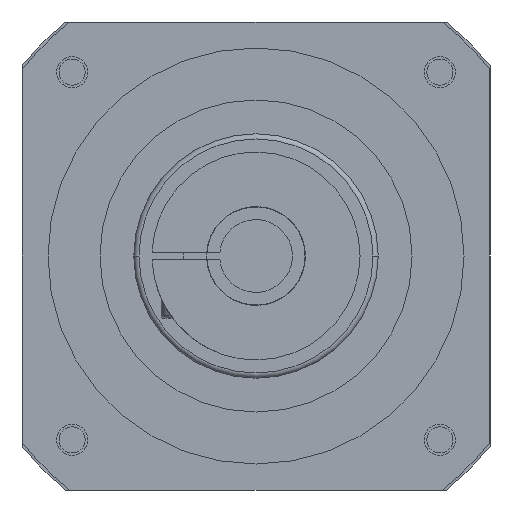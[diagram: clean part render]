
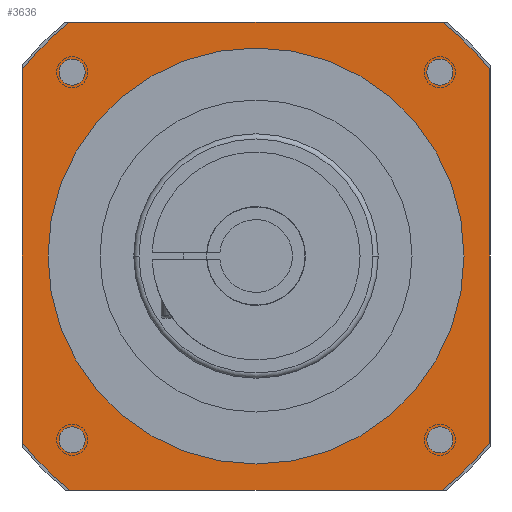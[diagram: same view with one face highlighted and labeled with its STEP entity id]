
A CAD part, left-side view. The second image highlights one B-rep face of the part: STEP entity #3636.
In plain terms, the highlighted planar face has unit normal (-1, 0, 0).
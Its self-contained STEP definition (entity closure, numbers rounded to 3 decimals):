
#832=CARTESIAN_POINT('',(0.,0.,0.));
#833=DIRECTION('',(-1.,0.,0.));
#834=DIRECTION('',(0.,-0.783,0.623));
#835=AXIS2_PLACEMENT_3D('',#832,#833,#834);
#837=DIRECTION('',(0.,0.,1.));
#838=VECTOR('',#837,71.589);
#839=CARTESIAN_POINT('',(0.,-45.,-35.795));
#840=LINE('',#839,#838);
#841=CARTESIAN_POINT('',(0.,0.,0.));
#842=DIRECTION('',(-1.,0.,0.));
#843=DIRECTION('',(0.,-0.623,-0.783));
#844=AXIS2_PLACEMENT_3D('',#841,#842,#843);
#846=DIRECTION('',(0.,-1.,0.));
#847=VECTOR('',#846,71.589);
#848=CARTESIAN_POINT('',(0.,35.795,-45.));
#849=LINE('',#848,#847);
#850=CARTESIAN_POINT('',(0.,0.,0.));
#851=DIRECTION('',(-1.,0.,0.));
#852=DIRECTION('',(0.,0.783,-0.623));
#853=AXIS2_PLACEMENT_3D('',#850,#851,#852);
#855=DIRECTION('',(0.,0.,-1.));
#856=VECTOR('',#855,71.589);
#857=CARTESIAN_POINT('',(0.,45.,35.795));
#858=LINE('',#857,#856);
#859=CARTESIAN_POINT('',(0.,0.,0.));
#860=DIRECTION('',(-1.,0.,0.));
#861=DIRECTION('',(0.,0.623,0.783));
#862=AXIS2_PLACEMENT_3D('',#859,#860,#861);
#864=DIRECTION('',(0.,1.,0.));
#865=VECTOR('',#864,71.589);
#866=CARTESIAN_POINT('',(0.,-35.795,45.));
#867=LINE('',#866,#865);
#868=CARTESIAN_POINT('',(0.,0.,0.));
#869=DIRECTION('',(1.,0.,0.));
#870=DIRECTION('',(0.,-1.,0.));
#871=AXIS2_PLACEMENT_3D('',#868,#869,#870);
#873=CARTESIAN_POINT('',(0.,0.,0.));
#874=DIRECTION('',(1.,0.,0.));
#875=DIRECTION('',(0.,1.,0.));
#876=AXIS2_PLACEMENT_3D('',#873,#874,#875);
#878=CARTESIAN_POINT('',(0.,-35.355,35.355));
#879=DIRECTION('',(-1.,0.,0.));
#880=DIRECTION('',(0.,0.,-1.));
#881=AXIS2_PLACEMENT_3D('',#878,#879,#880);
#883=CARTESIAN_POINT('',(0.,-35.355,35.355));
#884=DIRECTION('',(-1.,0.,0.));
#885=DIRECTION('',(0.,0.,1.));
#886=AXIS2_PLACEMENT_3D('',#883,#884,#885);
#888=CARTESIAN_POINT('',(0.,-35.355,-35.355));
#889=DIRECTION('',(-1.,0.,0.));
#890=DIRECTION('',(0.,0.,-1.));
#891=AXIS2_PLACEMENT_3D('',#888,#889,#890);
#893=CARTESIAN_POINT('',(0.,-35.355,-35.355));
#894=DIRECTION('',(-1.,0.,0.));
#895=DIRECTION('',(0.,0.,1.));
#896=AXIS2_PLACEMENT_3D('',#893,#894,#895);
#898=CARTESIAN_POINT('',(0.,35.355,-35.355));
#899=DIRECTION('',(-1.,0.,0.));
#900=DIRECTION('',(0.,0.,-1.));
#901=AXIS2_PLACEMENT_3D('',#898,#899,#900);
#903=CARTESIAN_POINT('',(0.,35.355,-35.355));
#904=DIRECTION('',(-1.,0.,0.));
#905=DIRECTION('',(0.,0.,1.));
#906=AXIS2_PLACEMENT_3D('',#903,#904,#905);
#908=CARTESIAN_POINT('',(0.,35.355,35.355));
#909=DIRECTION('',(-1.,0.,0.));
#910=DIRECTION('',(0.,0.,-1.));
#911=AXIS2_PLACEMENT_3D('',#908,#909,#910);
#913=CARTESIAN_POINT('',(0.,35.355,35.355));
#914=DIRECTION('',(-1.,0.,0.));
#915=DIRECTION('',(0.,0.,1.));
#916=AXIS2_PLACEMENT_3D('',#913,#914,#915);
#2145=CARTESIAN_POINT('',(0.,-45.,35.795));
#2146=CARTESIAN_POINT('',(0.,-35.795,45.));
#2147=VERTEX_POINT('',#2145);
#2148=VERTEX_POINT('',#2146);
#2149=CARTESIAN_POINT('',(0.,35.795,45.));
#2150=VERTEX_POINT('',#2149);
#2151=CARTESIAN_POINT('',(0.,45.,35.795));
#2152=VERTEX_POINT('',#2151);
#2153=CARTESIAN_POINT('',(0.,45.,-35.795));
#2154=VERTEX_POINT('',#2153);
#2155=CARTESIAN_POINT('',(0.,35.795,-45.));
#2156=VERTEX_POINT('',#2155);
#2157=CARTESIAN_POINT('',(0.,-35.795,-45.));
#2158=VERTEX_POINT('',#2157);
#2159=CARTESIAN_POINT('',(0.,-45.,-35.795));
#2160=VERTEX_POINT('',#2159);
#2177=CARTESIAN_POINT('',(0.,-40.,0.));
#2178=CARTESIAN_POINT('',(0.,40.,0.));
#2179=VERTEX_POINT('',#2177);
#2180=VERTEX_POINT('',#2178);
#2197=CARTESIAN_POINT('',(0.,-35.355,32.855));
#2198=CARTESIAN_POINT('',(0.,-35.355,37.855));
#2199=VERTEX_POINT('',#2197);
#2200=VERTEX_POINT('',#2198);
#2201=CARTESIAN_POINT('',(0.,-35.355,-37.855));
#2202=CARTESIAN_POINT('',(0.,-35.355,-32.855));
#2203=VERTEX_POINT('',#2201);
#2204=VERTEX_POINT('',#2202);
#2205=CARTESIAN_POINT('',(0.,35.355,-37.855));
#2206=CARTESIAN_POINT('',(0.,35.355,-32.855));
#2207=VERTEX_POINT('',#2205);
#2208=VERTEX_POINT('',#2206);
#2209=CARTESIAN_POINT('',(0.,35.355,32.855));
#2210=CARTESIAN_POINT('',(0.,35.355,37.855));
#2211=VERTEX_POINT('',#2209);
#2212=VERTEX_POINT('',#2210);
#3591=CARTESIAN_POINT('',(0.,0.,0.));
#3592=DIRECTION('',(-1.,0.,0.));
#3593=DIRECTION('',(0.,0.,-1.));
#3594=AXIS2_PLACEMENT_3D('',#3591,#3592,#3593);
#3595=PLANE('',#3594);
#3596=ORIENTED_EDGE('',*,*,#3481,.F.);
#3597=ORIENTED_EDGE('',*,*,#3496,.F.);
#3598=ORIENTED_EDGE('',*,*,#3510,.F.);
#3599=ORIENTED_EDGE('',*,*,#3524,.F.);
#3600=ORIENTED_EDGE('',*,*,#3544,.F.);
#3601=ORIENTED_EDGE('',*,*,#3558,.F.);
#3602=ORIENTED_EDGE('',*,*,#3572,.F.);
#3603=ORIENTED_EDGE('',*,*,#3585,.F.);
#3604=EDGE_LOOP('',(#3596,#3597,#3598,#3599,#3600,#3601,#3602,#3603));
#3605=FACE_OUTER_BOUND('',#3604,.F.);
#3607=ORIENTED_EDGE('',*,*,#3606,.F.);
#3609=ORIENTED_EDGE('',*,*,#3608,.F.);
#3610=EDGE_LOOP('',(#3607,#3609));
#3611=FACE_BOUND('',#3610,.F.);
#3613=ORIENTED_EDGE('',*,*,#3612,.T.);
#3615=ORIENTED_EDGE('',*,*,#3614,.T.);
#3616=EDGE_LOOP('',(#3613,#3615));
#3617=FACE_BOUND('',#3616,.F.);
#3619=ORIENTED_EDGE('',*,*,#3618,.T.);
#3621=ORIENTED_EDGE('',*,*,#3620,.T.);
#3622=EDGE_LOOP('',(#3619,#3621));
#3623=FACE_BOUND('',#3622,.F.);
#3625=ORIENTED_EDGE('',*,*,#3624,.T.);
#3627=ORIENTED_EDGE('',*,*,#3626,.T.);
#3628=EDGE_LOOP('',(#3625,#3627));
#3629=FACE_BOUND('',#3628,.F.);
#3631=ORIENTED_EDGE('',*,*,#3630,.T.);
#3633=ORIENTED_EDGE('',*,*,#3632,.T.);
#3634=EDGE_LOOP('',(#3631,#3633));
#3635=FACE_BOUND('',#3634,.F.);
#836=CIRCLE('',#835,57.5);
#845=CIRCLE('',#844,57.5);
#854=CIRCLE('',#853,57.5);
#863=CIRCLE('',#862,57.5);
#872=CIRCLE('',#871,40.);
#877=CIRCLE('',#876,40.);
#882=CIRCLE('',#881,2.5);
#887=CIRCLE('',#886,2.5);
#892=CIRCLE('',#891,2.5);
#897=CIRCLE('',#896,2.5);
#902=CIRCLE('',#901,2.5);
#907=CIRCLE('',#906,2.5);
#912=CIRCLE('',#911,2.5);
#917=CIRCLE('',#916,2.5);
#3481=EDGE_CURVE('',#2147,#2148,#836,.T.);
#3496=EDGE_CURVE('',#2160,#2147,#840,.T.);
#3510=EDGE_CURVE('',#2158,#2160,#845,.T.);
#3524=EDGE_CURVE('',#2156,#2158,#849,.T.);
#3544=EDGE_CURVE('',#2154,#2156,#854,.T.);
#3558=EDGE_CURVE('',#2152,#2154,#858,.T.);
#3572=EDGE_CURVE('',#2150,#2152,#863,.T.);
#3585=EDGE_CURVE('',#2148,#2150,#867,.T.);
#3606=EDGE_CURVE('',#2179,#2180,#872,.T.);
#3608=EDGE_CURVE('',#2180,#2179,#877,.T.);
#3612=EDGE_CURVE('',#2199,#2200,#882,.T.);
#3614=EDGE_CURVE('',#2200,#2199,#887,.T.);
#3618=EDGE_CURVE('',#2203,#2204,#892,.T.);
#3620=EDGE_CURVE('',#2204,#2203,#897,.T.);
#3624=EDGE_CURVE('',#2207,#2208,#902,.T.);
#3626=EDGE_CURVE('',#2208,#2207,#907,.T.);
#3630=EDGE_CURVE('',#2211,#2212,#912,.T.);
#3632=EDGE_CURVE('',#2212,#2211,#917,.T.);
#3636=ADVANCED_FACE('',(#3605,#3611,#3617,#3623,#3629,#3635),#3595,.T.);
